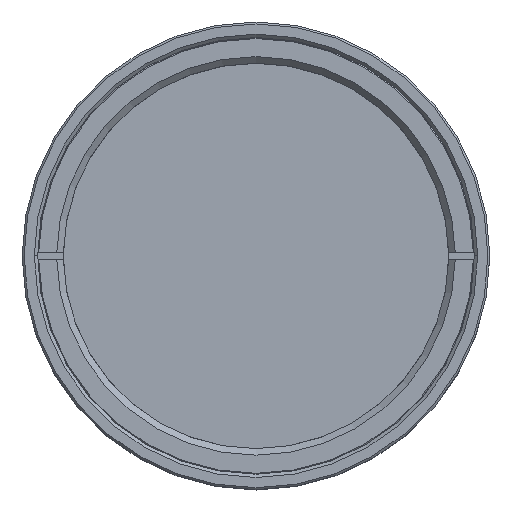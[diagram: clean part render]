
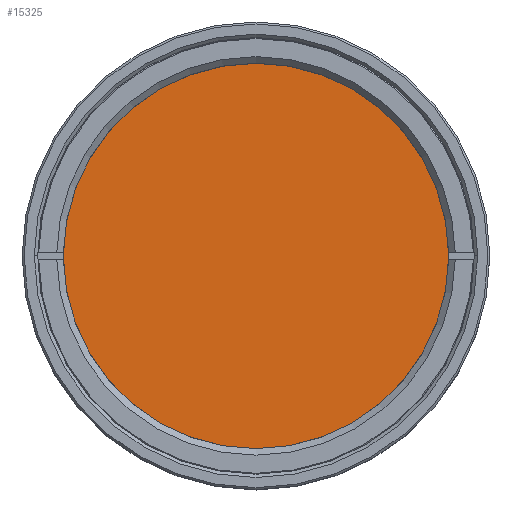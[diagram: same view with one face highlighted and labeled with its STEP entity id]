
A CAD part, top view. The second image highlights one B-rep face of the part: STEP entity #15325.
In plain terms, the highlighted planar face has unit normal (0, 0, 1).
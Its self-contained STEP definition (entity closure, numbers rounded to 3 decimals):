
#9 = CARTESIAN_POINT ( 'NONE',  ( 0., 0., 82.517 ) ) ;
#680 = DIRECTION ( 'NONE',  ( 0., 0., -1. ) ) ;
#827 = CARTESIAN_POINT ( 'NONE',  ( 29.35, 0., 82.517 ) ) ;
#1642 = AXIS2_PLACEMENT_3D ( 'NONE', #9, #12153, #1783 ) ;
#1773 = EDGE_CURVE ( 'NONE', #16671, #10916, #11072, .T. ) ;
#1783 = DIRECTION ( 'NONE',  ( 1., 0., 0. ) ) ;
#5726 = FACE_OUTER_BOUND ( 'NONE', #8123, .T. ) ;
#5848 = CARTESIAN_POINT ( 'NONE',  ( 0., 29.35, 82.517 ) ) ;
#7237 = ORIENTED_EDGE ( 'NONE', *, *, #1773, .T. ) ;
#8123 = EDGE_LOOP ( 'NONE', ( #7237, #10353 ) ) ;
#8730 = CARTESIAN_POINT ( 'NONE',  ( 0., 0., 82.517 ) ) ;
#8983 = PLANE ( 'NONE',  #10126 ) ;
#9366 = CARTESIAN_POINT ( 'NONE',  ( -29.35, 0., 82.517 ) ) ;
#10126 = AXIS2_PLACEMENT_3D ( 'NONE', #5848, #680, #12766 ) ;
#10353 = ORIENTED_EDGE ( 'NONE', *, *, #11816, .T. ) ;
#10916 = VERTEX_POINT ( 'NONE', #827 ) ;
#11072 = CIRCLE ( 'NONE', #17536, 29.35 ) ;
#11816 = EDGE_CURVE ( 'NONE', #10916, #16671, #14406, .T. ) ;
#12153 = DIRECTION ( 'NONE',  ( 0., 0., 1. ) ) ;
#12766 = DIRECTION ( 'NONE',  ( -1., 0., 0. ) ) ;
#14406 = CIRCLE ( 'NONE', #1642, 29.35 ) ;
#15325 = ADVANCED_FACE ( 'NONE', ( #5726 ), #8983, .F. ) ;
#16671 = VERTEX_POINT ( 'NONE', #9366 ) ;
#17536 = AXIS2_PLACEMENT_3D ( 'NONE', #8730, #22153, #21737 ) ;
#21737 = DIRECTION ( 'NONE',  ( 1., 0., 0. ) ) ;
#22153 = DIRECTION ( 'NONE',  ( 0., 0., 1. ) ) ;
